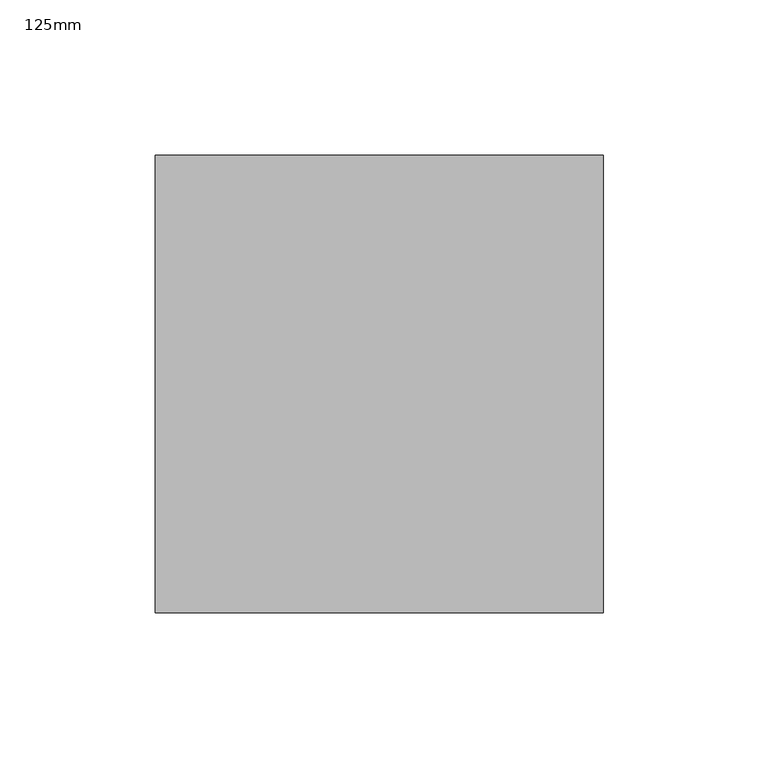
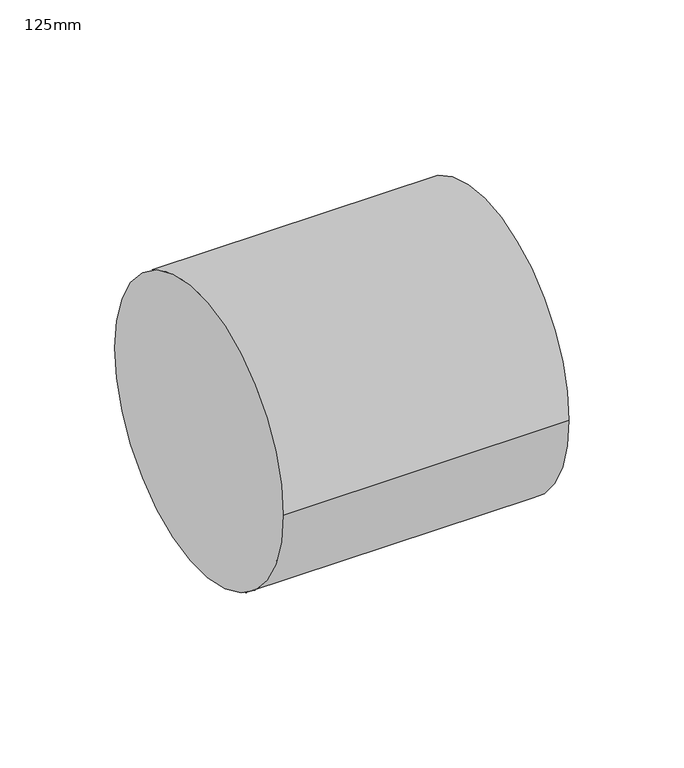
"""IFC4 building model written with IfcOpenShell, lengths in millimetres: pipe fitting geometry, PipeFitting_HTA_CPVC_Couplings : 125mm."""

import ifcopenshell
import ifcopenshell.guid

model = None  # the IFC model being written
_history = None  # IfcOwnerHistory: only IFC2X3 demands one
_inside = {}  # id of a spatial element -> (the spatial element, [elements in it])
_under = {}  # id of a project, library or spatial element -> (it, [spatial elements below it])
_declared = {}  # id of a project -> (the project, [libraries it declares])
_typed = {}  # id of a type object -> (the type object, [elements of that type])
_made_of = {}  # id of a material, layer set ... -> (it, [elements and type objects made of it])


def new_model(schema):
    """Start an empty IFC model of exactly this schema.

    Asked for "IFC4X3", IfcOpenShell would pick the latest addendum, in which some entities
    have other attributes; the version numbers below select the first issue.
    IFC2X3 requires an IfcOwnerHistory on every rooted entity: one is made here for all.
    """
    global model, _history
    if schema == "IFC4X3":
        model = ifcopenshell.file(schema_version=(4, 3, 0, 0))
    else:
        model = ifcopenshell.file(schema=schema)
    _inside.clear()
    _under.clear()
    _declared.clear()
    _typed.clear()
    _made_of.clear()
    _history = None
    if model.schema == "IFC2X3":
        org = make("IfcOrganization", Name="unknown")
        user = make(
            "IfcPersonAndOrganization",
            ThePerson=make("IfcPerson", FamilyName="unknown"),
            TheOrganization=org,
        )
        app = make(
            "IfcApplication",
            ApplicationDeveloper=org,
            Version="unknown",
            ApplicationFullName="unknown",
            ApplicationIdentifier="unknown",
        )
        _history = make(
            "IfcOwnerHistory",
            OwningUser=user,
            OwningApplication=app,
            ChangeAction="ADDED",
            CreationDate=0,
        )
    return model


def make(cls, **values):
    """One entity of the class cls with the attributes given. An attribute that is None is left unset."""
    return model.create_entity(
        cls, **{name: value for name, value in values.items() if value is not None}
    )


def rooted(cls, **values):
    """An entity with a GlobalId (a new one), such as an element, a storey or a relation."""
    return make(cls, GlobalId=ifcopenshell.guid.new(), OwnerHistory=_history, **values)


def si_unit(unit_type, name, prefix=None):
    """IfcSIUnit, for example si_unit("LENGTHUNIT", "METRE", prefix="MILLI")."""
    return make("IfcSIUnit", UnitType=unit_type, Prefix=prefix, Name=name)


def assignment(units):
    """IfcUnitAssignment: the units of a project."""
    return None if units is None else make("IfcUnitAssignment", Units=units)


def point(xyz):
    """IfcCartesianPoint."""
    return None if xyz is None else make("IfcCartesianPoint", Coordinates=xyz)


def direction(xyz):
    """IfcDirection."""
    return None if xyz is None else make("IfcDirection", DirectionRatios=xyz)


def frame(location, z_axis=None, x_axis=None):
    """IfcAxis2Placement3D, a coordinate frame: its origin and axes. An axis left out is left unset."""
    return make(
        "IfcAxis2Placement3D",
        Location=point(location),
        Axis=direction(z_axis),
        RefDirection=direction(x_axis),
    )


def frame_2d(location, x_axis=None):
    """IfcAxis2Placement2D, a coordinate frame in the plane: its origin and x axis."""
    return make(
        "IfcAxis2Placement2D", Location=point(location), RefDirection=direction(x_axis)
    )


def origin():
    """The frame at (0, 0, 0) with its axes left unset."""
    return frame((0.0, 0.0, 0.0))


def origin_2d():
    """The frame at (0, 0) in the plane with its x axis left unset."""
    return frame_2d((0.0, 0.0))


def place(relative_to, where):
    """IfcLocalPlacement: puts the frame where relative to a parent placement (None: the world)."""
    return make(
        "IfcLocalPlacement", PlacementRelTo=relative_to, RelativePlacement=where
    )


def context(
    kind, dimensions, precision=None, world=None, true_north=None, identifier=None
):
    """IfcGeometricRepresentationContext, for example the 3D "Model" context."""
    return make(
        "IfcGeometricRepresentationContext",
        ContextIdentifier=identifier,
        ContextType=kind,
        CoordinateSpaceDimension=dimensions,
        Precision=precision,
        WorldCoordinateSystem=world,
        TrueNorth=true_north,
    )


def project(units=None, contexts=None):
    """IfcProject with its units and contexts."""
    return rooted(
        "IfcProject",
        Name="project",
        RepresentationContexts=contexts,
        UnitsInContext=assignment(units),
    )


def spatial(cls, under=None, at=None, **own):
    """A site, building, storey or space (cls), placed at a placement, below another one or the project."""
    s = rooted(cls, ObjectPlacement=at, **own)
    if under is not None:
        _under.setdefault(under.id(), (under, []))[1].append(s)
    return s


def circle_curve(where, radius):
    """IfcCircle in the frame where."""
    return make("IfcCircle", Position=where, Radius=radius)


def trimmed(basis, trim1, trim2, sense, master):
    """IfcTrimmedCurve: the piece of a basis curve between two trims."""
    return make(
        "IfcTrimmedCurve",
        BasisCurve=basis,
        Trim1=trim1,
        Trim2=trim2,
        SenseAgreement=sense,
        MasterRepresentation=master,
    )


def segment(curve, same_sense, transition):
    """IfcCompositeCurveSegment."""
    return make(
        "IfcCompositeCurveSegment",
        Transition=transition,
        SameSense=same_sense,
        ParentCurve=curve,
    )


def composite_curve(segments, self_intersect=None):
    """IfcCompositeCurve: segments joined end to end."""
    return make("IfcCompositeCurve", Segments=segments, SelfIntersect=self_intersect)


def outline(outer, holes=None, kind="AREA"):
    """IfcArbitraryClosedProfileDef: a profile drawn as a closed curve; with holes, ...WithVoids."""
    if holes is None:
        return make("IfcArbitraryClosedProfileDef", ProfileType=kind, OuterCurve=outer)
    return make(
        "IfcArbitraryProfileDefWithVoids",
        ProfileType=kind,
        OuterCurve=outer,
        InnerCurves=holes,
    )


def extrude(swept, where, along, depth):
    """IfcExtrudedAreaSolid: the profile swept, set in the frame where, extruded along a direction by depth."""
    return make(
        "IfcExtrudedAreaSolid",
        SweptArea=swept,
        Position=where,
        ExtrudedDirection=direction(along),
        Depth=depth,
    )


def shape(context_of_items, identifier, shape_type, items):
    """IfcShapeRepresentation: the items that make up one representation, for example the "Body"."""
    return make(
        "IfcShapeRepresentation",
        ContextOfItems=context_of_items,
        RepresentationIdentifier=identifier,
        RepresentationType=shape_type,
        Items=items,
    )


def source(mapping_origin, context_of_items, identifier, shape_type, items):
    """IfcRepresentationMap: a shape defined once, which mapped items show again and again."""
    return make(
        "IfcRepresentationMap",
        MappingOrigin=mapping_origin,
        MappedRepresentation=shape(context_of_items, identifier, shape_type, items),
    )


def transform(
    local_origin,
    x_axis=None,
    y_axis=None,
    z_axis=None,
    scale=None,
    scale2=None,
    scale3=None,
    uniform=True,
):
    """IfcCartesianTransformationOperator3D, or its non-uniform kind. x_axis, y_axis, z_axis: its Axis1, 2, 3."""
    if uniform:
        return make(
            "IfcCartesianTransformationOperator3D",
            Axis1=direction(x_axis),
            Axis2=direction(y_axis),
            LocalOrigin=point(local_origin),
            Scale=scale,
            Axis3=direction(z_axis),
        )
    return make(
        "IfcCartesianTransformationOperator3DnonUniform",
        Axis1=direction(x_axis),
        Axis2=direction(y_axis),
        LocalOrigin=point(local_origin),
        Scale=scale,
        Axis3=direction(z_axis),
        Scale2=scale2,
        Scale3=scale3,
    )


def mapped(mapping_source, mapping_target):
    """IfcMappedItem: shows the shape of a source again, moved by a transform."""
    return make(
        "IfcMappedItem", MappingSource=mapping_source, MappingTarget=mapping_target
    )


def made_of(thing, what):
    """Note that an element or type object is made of a material, layer set ...; save() writes the relation."""
    if what is not None:
        _made_of.setdefault(what.id(), (what, []))[1].append(thing)
    return thing


def element(
    cls,
    number,
    at=None,
    inside=None,
    cuts=None,
    type_object=None,
    material=None,
    context=None,
    identifier="Body",
    shape_type=None,
    held_by="IfcProductDefinitionShape",
    body=None,
    shapes=None,
    **own,
):
    """One element of the class cls, such as IfcWall. Its Tag is "e" and its number.

    at: its placement. inside: the storey or other place that contains it. cuts: it is an
    opening in that element (IfcRelVoidsElement). A single representation is given by context,
    identifier, shape_type and body (its items); several are given by shapes. held_by: the class
    of the entity that holds the representations. save() writes the other relations.
    """
    e = rooted(cls, Tag="e%d" % number, ObjectPlacement=at, **own)
    if body is not None:
        shapes = [shape(context, identifier, shape_type, body)]
    if shapes is not None:
        e.Representation = make(held_by, Representations=shapes)
    if inside is not None:
        _inside.setdefault(inside.id(), (inside, []))[1].append(e)
    if cuts is not None:
        rooted(
            "IfcRelVoidsElement", RelatingBuildingElement=cuts, RelatedOpeningElement=e
        )
    if type_object is not None:
        _typed.setdefault(type_object.id(), (type_object, []))[1].append(e)
    return made_of(e, material)


def aggregate(whole, parts):
    """IfcRelAggregates: a whole, such as a stair, and the parts it consists of."""
    return rooted("IfcRelAggregates", RelatingObject=whole, RelatedObjects=parts)


def save(model, path):
    """Write the relations noted so far, then the file.

    IfcRelAggregates (storeys below a building ...), IfcRelContainedInSpatialStructure (elements
    in a storey), IfcRelDefinesByType, IfcRelAssociatesMaterial and IfcRelDeclares: one each for
    every whole, place, type object, material and project.
    """
    for whole, parts in _under.values():
        aggregate(whole, parts)
    for where, things in _inside.values():
        rooted(
            "IfcRelContainedInSpatialStructure",
            RelatedElements=things,
            RelatingStructure=where,
        )
    for kind, things in _typed.values():
        rooted("IfcRelDefinesByType", RelatedObjects=things, RelatingType=kind)
    for what, things in _made_of.values():
        rooted("IfcRelAssociatesMaterial", RelatedObjects=things, RelatingMaterial=what)
    for by, libraries in _declared.values():
        rooted("IfcRelDeclares", RelatingContext=by, RelatedDefinitions=libraries)
    model.write(path)


def pipe_fitting_125mm_b8f31498(model_context):
    return source(origin(), model_context, "Body", "SweptSolid", [
        extrude(outline(composite_curve([segment(trimmed(circle_curve(origin_2d(), 73.5), [point((-73.5, 0.0))], [point((73.5, 0.0))], False, "CARTESIAN"), True, "CONTINUOUS"), segment(trimmed(circle_curve(origin_2d(), 73.5), [point((73.5, 0.0))], [point((-73.5, 0.0))], False, "CARTESIAN"), True, "CONTINUOUS")], self_intersect=False)), frame((-72.0, 0.0, 0.0), z_axis=(1.0, 0.0, 0.0), x_axis=(0.0, 1.0, 0.0)), (0.0, 0.0, 1.0), 144.0),
    ])


if __name__ == "__main__":
    model = new_model("IFC4")
    model_context = context("Model", 3, world=origin())
    ifc_project = project(units=[si_unit("LENGTHUNIT", "METRE", prefix="MILLI")], contexts=[model_context])
    site = spatial("IfcSite", under=ifc_project)
    building = spatial("IfcBuilding", under=site)
    placement = place(None, origin())
    pipe_fitting_125mm_shape = pipe_fitting_125mm_b8f31498(model_context)
    element("IfcPipeFitting", 1, ObjectType="PipeFitting_HTA_CPVC_Couplings : 125mm", at=placement, inside=building, context=model_context, shape_type="MappedRepresentation", body=[
        mapped(pipe_fitting_125mm_shape, transform((0.0, 0.0, 0.0), x_axis=(1.0, 0.0, 0.0), y_axis=(0.0, 1.0, 0.0), z_axis=(0.0, 0.0, 1.0))),
    ])
    save(model, "model.ifc")
